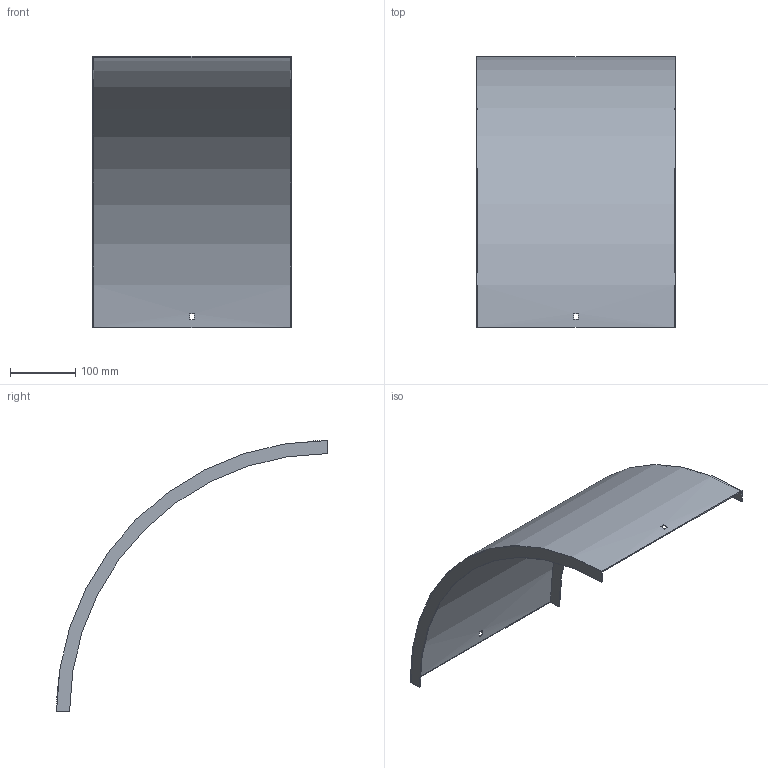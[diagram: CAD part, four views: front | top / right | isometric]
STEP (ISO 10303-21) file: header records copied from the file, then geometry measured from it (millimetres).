
FILE_DESCRIPTION (( 'STEP AP214' ), '1' );
FILE_NAME ('B2_33N3J300.step', '2025-02-21T10:47:34', ( '' ), ( '' ), 'SwSTEP 2.0', 'SolidWorks 2023', '' );
FILE_SCHEMA (( 'AUTOMOTIVE_DESIGN' ));
Length unit declared in the file: millimetre
Products named in the file (1): B2_33N3J300
Bounding box: 303 x 414 x 414 mm (x, y, z)
Volume: 330009.7 mm3; surface area: 442986.2 mm2
Topology: 1 solids, 1 shells, 18 faces, 48 edges, 32 vertices
Faces by surface type: plane 14, cylinder 4
Entity records: 599 total; most frequent: DIRECTION 102, CARTESIAN_POINT 99, ORIENTED_EDGE 96, EDGE_CURVE 48, AXIS2_PLACEMENT_3D 35, LINE 32, VECTOR 32, VERTEX_POINT 32
